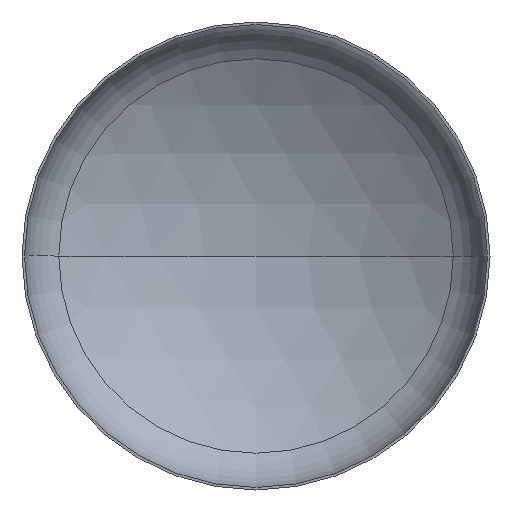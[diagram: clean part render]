
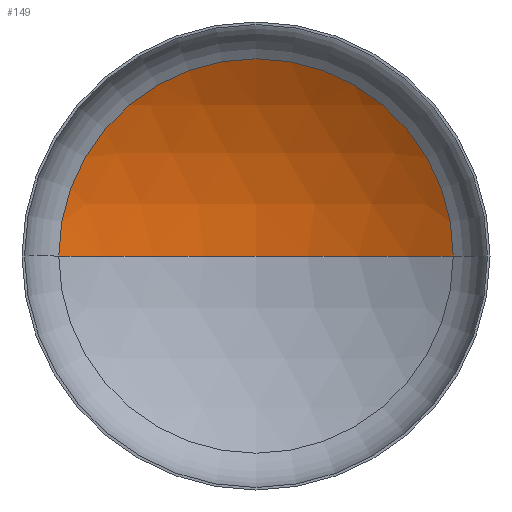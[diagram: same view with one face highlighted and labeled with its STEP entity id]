
A CAD part, front view. The second image highlights one B-rep face of the part: STEP entity #149.
In plain terms, the highlighted spherical face has radius 1760 mm.
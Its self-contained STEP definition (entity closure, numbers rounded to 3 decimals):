
#9 = EDGE_LOOP ( 'NONE', ( #56, #11, #130 ) ) ;
#11 = ORIENTED_EDGE ( 'NONE', *, *, #351, .T. ) ;
#30 = AXIS2_PLACEMENT_3D ( 'NONE', #243, #399, #187 ) ;
#43 = AXIS2_PLACEMENT_3D ( 'NONE', #168, #334, #335 ) ;
#48 = VERTEX_POINT ( 'NONE', #263 ) ;
#51 = AXIS2_PLACEMENT_3D ( 'NONE', #165, #162, #163 ) ;
#56 = ORIENTED_EDGE ( 'NONE', *, *, #356, .F. ) ;
#74 = VERTEX_POINT ( 'NONE', #230 ) ;
#104 = VERTEX_POINT ( 'NONE', #315 ) ;
#122 = SPHERICAL_SURFACE ( 'NONE', #128, 1760. ) ;
#128 = AXIS2_PLACEMENT_3D ( 'NONE', #304, #207, #355 ) ;
#130 = ORIENTED_EDGE ( 'NONE', *, *, #344, .T. ) ;
#149 = ADVANCED_FACE ( 'NONE', ( #206 ), #122, .F. ) ;
#162 = DIRECTION ( 'NONE',  ( 0., -1., 0. ) ) ;
#163 = DIRECTION ( 'NONE',  ( 1., 0., 0. ) ) ;
#165 = CARTESIAN_POINT ( 'NONE',  ( 0., 329.005, 0. ) ) ;
#168 = CARTESIAN_POINT ( 'NONE',  ( 0., -1167.019, 0. ) ) ;
#169 = CIRCLE ( 'NONE', #30, 1760. ) ;
#187 = DIRECTION ( 'NONE',  ( 1., 0., 0. ) ) ;
#206 = FACE_OUTER_BOUND ( 'NONE', #9, .T. ) ;
#207 = DIRECTION ( 'NONE',  ( 0., 0., -1. ) ) ;
#230 = CARTESIAN_POINT ( 'NONE',  ( 927.099, 329.005, 0. ) ) ;
#243 = CARTESIAN_POINT ( 'NONE',  ( 0., -1167.019, 0. ) ) ;
#263 = CARTESIAN_POINT ( 'NONE',  ( -927.099, 329.005, 0. ) ) ;
#304 = CARTESIAN_POINT ( 'NONE',  ( 0., -1167.019, 0. ) ) ;
#315 = CARTESIAN_POINT ( 'NONE',  ( 0., 592.981, 0. ) ) ;
#334 = DIRECTION ( 'NONE',  ( 0., 0., -1. ) ) ;
#335 = DIRECTION ( 'NONE',  ( -1., 0., 0. ) ) ;
#344 = EDGE_CURVE ( 'NONE', #74, #48, #361, .T. ) ;
#351 = EDGE_CURVE ( 'NONE', #104, #74, #354, .T. ) ;
#354 = CIRCLE ( 'NONE', #43, 1760. ) ;
#355 = DIRECTION ( 'NONE',  ( -1., 0., 0. ) ) ;
#356 = EDGE_CURVE ( 'NONE', #104, #48, #169, .T. ) ;
#361 = CIRCLE ( 'NONE', #51, 927.099 ) ;
#399 = DIRECTION ( 'NONE',  ( 0., 0., 1. ) ) ;
